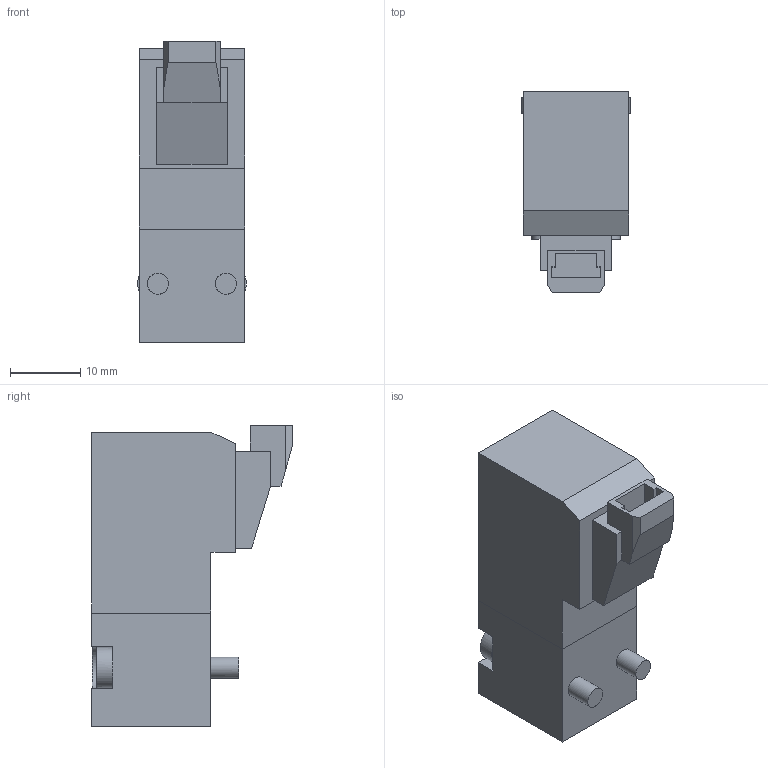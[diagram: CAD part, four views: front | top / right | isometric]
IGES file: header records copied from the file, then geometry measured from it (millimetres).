
Global section: file name: N3##_R7#-2; native system: Autodesk Inventor 2014; preprocessor: unknown; author: A. Manieri; organization: Pneumax S.p.A.; date: 20160913.142030; units: millimetre
Bounding box: 15.5 x 28.6 x 42.97 mm (x, y, z)
Volume: 12258.7 mm3; surface area: 4105 mm2
Topology: 1 solids, 1 shells, 90 faces, 236 edges, 154 vertices
Faces by surface type: bspline 90
